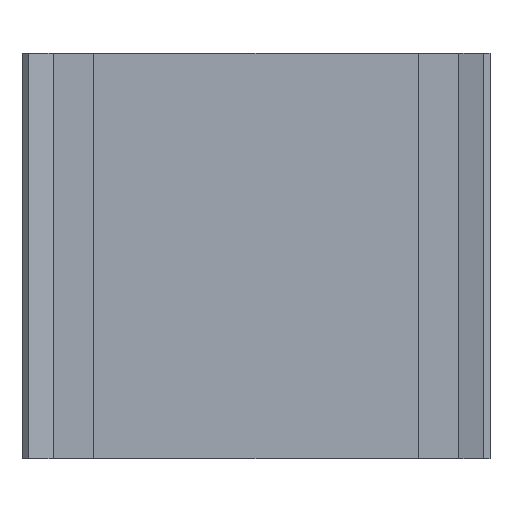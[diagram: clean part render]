
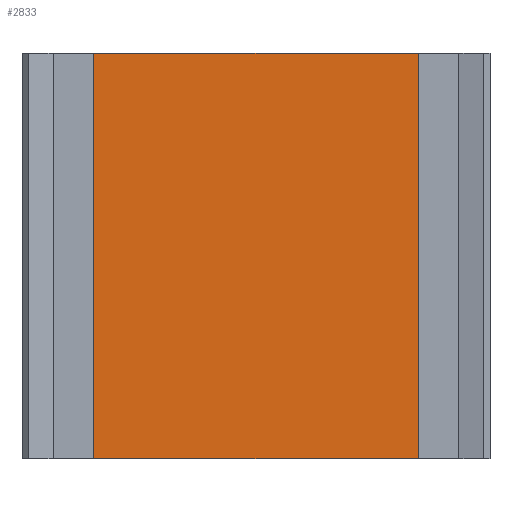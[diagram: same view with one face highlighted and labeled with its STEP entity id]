
A CAD part, left-side view. The second image highlights one B-rep face of the part: STEP entity #2833.
In plain terms, the highlighted planar face has unit normal (-1, 0, 0).
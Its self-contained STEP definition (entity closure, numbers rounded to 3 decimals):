
#139=FACE_OUTER_BOUND('',#309,.T.);
#309=EDGE_LOOP('',(#2186,#2187,#2188,#2189));
#585=LINE('',#4244,#969);
#618=LINE('',#4310,#1002);
#619=LINE('',#4311,#1003);
#620=LINE('',#4312,#1004);
#969=VECTOR('',#3474,10.);
#1002=VECTOR('',#3529,10.);
#1003=VECTOR('',#3530,10.);
#1004=VECTOR('',#3531,10.);
#1288=VERTEX_POINT('',#4242);
#1289=VERTEX_POINT('',#4243);
#1310=VERTEX_POINT('',#4308);
#1311=VERTEX_POINT('',#4309);
#1609=EDGE_CURVE('',#1288,#1289,#585,.T.);
#1642=EDGE_CURVE('',#1310,#1311,#618,.T.);
#1643=EDGE_CURVE('',#1310,#1289,#619,.T.);
#1644=EDGE_CURVE('',#1311,#1288,#620,.T.);
#2186=ORIENTED_EDGE('',*,*,#1642,.F.);
#2187=ORIENTED_EDGE('',*,*,#1643,.T.);
#2188=ORIENTED_EDGE('',*,*,#1609,.F.);
#2189=ORIENTED_EDGE('',*,*,#1644,.F.);
#2663=PLANE('',#3022);
#2833=ADVANCED_FACE('',(#139),#2663,.F.);
#3022=AXIS2_PLACEMENT_3D('',#4307,#3527,#3528);
#3474=DIRECTION('',(0.,0.,-1.));
#3527=DIRECTION('center_axis',(1.,0.,0.));
#3528=DIRECTION('ref_axis',(0.,1.,0.));
#3529=DIRECTION('',(0.,0.,1.));
#3530=DIRECTION('',(0.,-1.,0.));
#3531=DIRECTION('',(0.,-1.,0.));
#4242=CARTESIAN_POINT('',(3.5,3.,30.));
#4243=CARTESIAN_POINT('',(3.5,3.,0.));
#4244=CARTESIAN_POINT('',(3.5,3.,25.));
#4307=CARTESIAN_POINT('Origin',(3.5,16.,25.));
#4308=CARTESIAN_POINT('',(3.5,27.,0.));
#4309=CARTESIAN_POINT('',(3.5,27.,30.));
#4310=CARTESIAN_POINT('',(3.5,27.,22.5));
#4311=CARTESIAN_POINT('',(3.5,16.,0.));
#4312=CARTESIAN_POINT('',(3.5,16.,30.));
